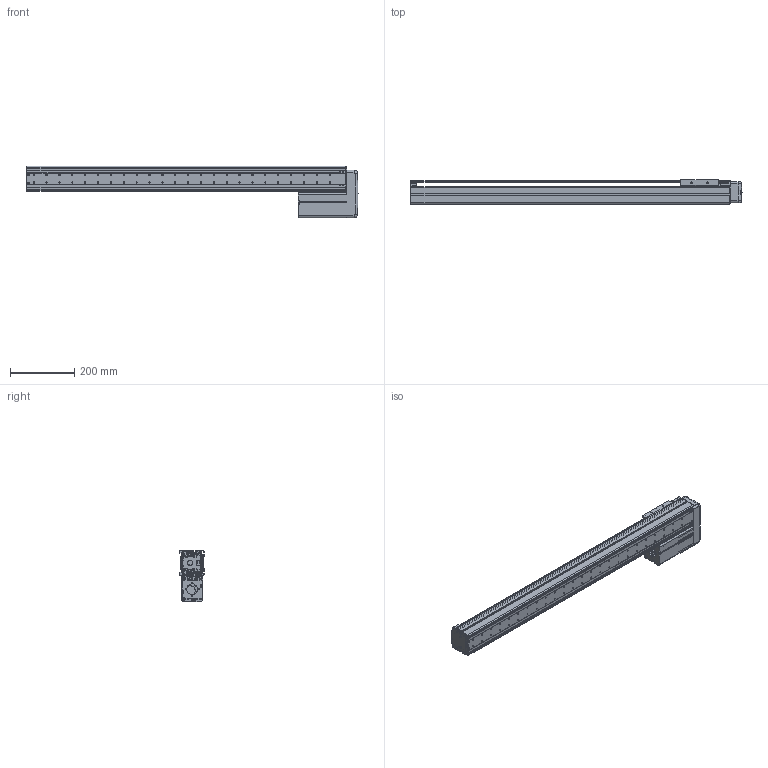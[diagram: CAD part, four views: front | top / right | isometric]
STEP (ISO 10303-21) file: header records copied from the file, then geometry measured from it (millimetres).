
FILE_DESCRIPTION((''),'2;1');
FILE_NAME('BE10E-UL-M_N-80_IGS_PRT','2017-06-17T',(' '),(''),'PRO/ENGINEER BY PARAMETRIC TECHNOLOGY CORPORATION, 2015030','PRO/ENGINEER BY PARAMETRIC TECHNOLOGY CORPORATION, 2015030','');
FILE_SCHEMA(('CONFIG_CONTROL_DESIGN'));
Length unit declared in the file: millimetre
Products named in the file (1): BE10E-UL-M_N-80_IGS_PRT
Bounding box: 1032 x 75 x 160 mm (x, y, z)
Volume: 1408013.3 mm3; surface area: 994749.2 mm2
Topology: 4 solids, 128 shells, 1850 faces, 4991 edges, 3261 vertices
Faces by surface type: cylinder 911, plane 711, cone 81, torus 71, sphere 44, bspline 32
Entity records: 60553 total; most frequent: CARTESIAN_POINT 12796, DIRECTION 10378, ORIENTED_EDGE 9440, EDGE_CURVE 4955, AXIS2_PLACEMENT_3D 3907, VERTEX_POINT 3261, VECTOR 2564, LINE 2564
